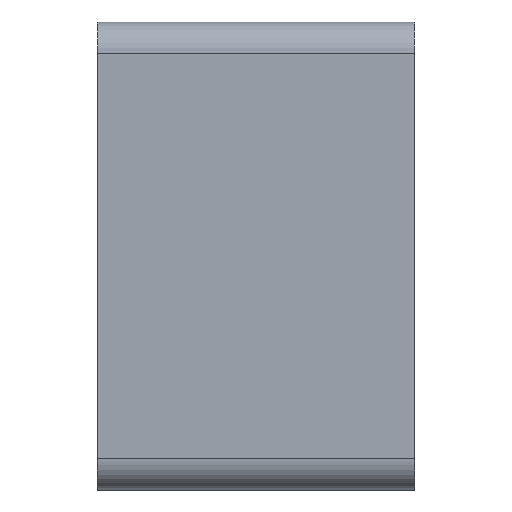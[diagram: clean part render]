
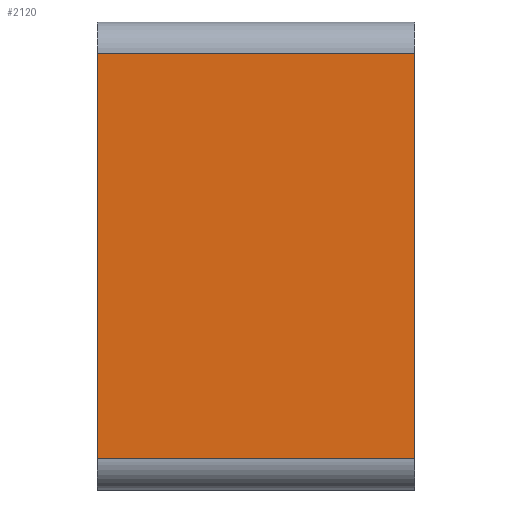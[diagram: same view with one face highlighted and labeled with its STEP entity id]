
A CAD part, left-side view. The second image highlights one B-rep face of the part: STEP entity #2120.
In plain terms, the highlighted planar face has unit normal (-1, 0, 0).
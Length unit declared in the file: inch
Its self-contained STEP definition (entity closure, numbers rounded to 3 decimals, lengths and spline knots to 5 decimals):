
#623 = DIRECTION ( 'NONE',  ( 0., 0., 1. ) ) ;
#1409 = CARTESIAN_POINT ( 'NONE',  ( -14.95307, -14.5, 9.25051 ) ) ;
#1692 = PLANE ( 'NONE',  #39850 ) ;
#2120 = ADVANCED_FACE ( 'NONE', ( #35636 ), #1692, .T. ) ;
#4250 = DIRECTION ( 'NONE',  ( 0., 0., 1. ) ) ;
#5663 = DIRECTION ( 'NONE',  ( 0., 1., 0. ) ) ;
#13353 = CARTESIAN_POINT ( 'NONE',  ( -14.95307, 0., -9.25051 ) ) ;
#16369 = CARTESIAN_POINT ( 'NONE',  ( -14.95307, -14.5, -9.25051 ) ) ;
#16936 = CARTESIAN_POINT ( 'NONE',  ( -14.95307, -14.5, 9.25051 ) ) ;
#18337 = EDGE_CURVE ( 'NONE', #30166, #20212, #29776, .T. ) ;
#20212 = VERTEX_POINT ( 'NONE', #13353 ) ;
#20471 = EDGE_CURVE ( 'NONE', #20212, #30291, #50051, .T. ) ;
#24804 = CARTESIAN_POINT ( 'NONE',  ( -14.95307, -14.5, -9.25051 ) ) ;
#25980 = DIRECTION ( 'NONE',  ( 0., 0., 1. ) ) ;
#29776 = LINE ( 'NONE', #61530, #54054 ) ;
#30166 = VERTEX_POINT ( 'NONE', #32845 ) ;
#30291 = VERTEX_POINT ( 'NONE', #38540 ) ;
#31960 = DIRECTION ( 'NONE',  ( -1., 0., 0. ) ) ;
#32220 = ORIENTED_EDGE ( 'NONE', *, *, #20471, .F. ) ;
#32261 = ORIENTED_EDGE ( 'NONE', *, *, #44879, .T. ) ;
#32845 = CARTESIAN_POINT ( 'NONE',  ( -14.95307, -14.5, -9.25051 ) ) ;
#33650 = VECTOR ( 'NONE', #5663, 39.37008 ) ;
#35636 = FACE_OUTER_BOUND ( 'NONE', #39543, .T. ) ;
#37175 = VECTOR ( 'NONE', #25980, 39.37008 ) ;
#38540 = CARTESIAN_POINT ( 'NONE',  ( -14.95307, 0., 9.25051 ) ) ;
#39543 = EDGE_LOOP ( 'NONE', ( #32220, #44000, #60206, #32261 ) ) ;
#39850 = AXIS2_PLACEMENT_3D ( 'NONE', #16369, #31960, #4250 ) ;
#44000 = ORIENTED_EDGE ( 'NONE', *, *, #18337, .F. ) ;
#44879 = EDGE_CURVE ( 'NONE', #50347, #30291, #44980, .T. ) ;
#44980 = LINE ( 'NONE', #1409, #33650 ) ;
#48943 = LINE ( 'NONE', #24804, #60296 ) ;
#50051 = LINE ( 'NONE', #50102, #37175 ) ;
#50102 = CARTESIAN_POINT ( 'NONE',  ( -14.95307, 0., -9.25051 ) ) ;
#50347 = VERTEX_POINT ( 'NONE', #16936 ) ;
#50649 = EDGE_CURVE ( 'NONE', #30166, #50347, #48943, .T. ) ;
#54054 = VECTOR ( 'NONE', #56727, 39.37008 ) ;
#56727 = DIRECTION ( 'NONE',  ( 0., 1., 0. ) ) ;
#60206 = ORIENTED_EDGE ( 'NONE', *, *, #50649, .T. ) ;
#60296 = VECTOR ( 'NONE', #623, 39.37008 ) ;
#61530 = CARTESIAN_POINT ( 'NONE',  ( -14.95307, -14.5, -9.25051 ) ) ;
